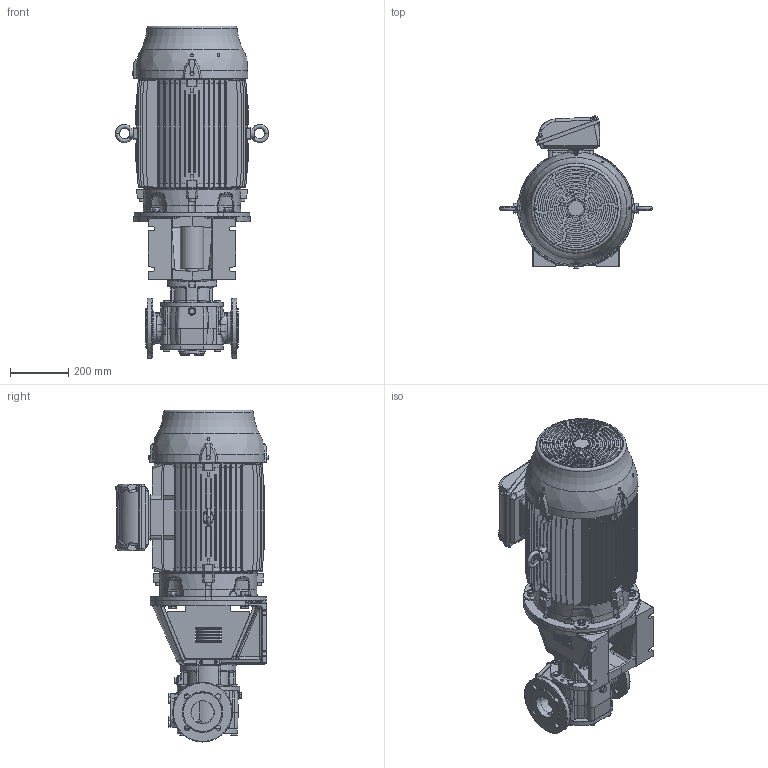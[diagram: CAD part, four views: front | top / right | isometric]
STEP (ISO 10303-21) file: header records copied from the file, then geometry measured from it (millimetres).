
FILE_DESCRIPTION(/* description */ (''),/* implementation_level */ '2;1');
FILE_NAME(/* name */ 'C:\V\JPP\Designs\GEAR PUMPS\PRODUCT ENGINEERING\EUROPE\TG BLOC\TG BLOC_58-80_R3_O_NRV-_200L-STEP.stp',/* time_stamp */ '2021-03-19T11:28:52+01:00',/* author */ ('A77THR'),/* organization */ (''),/* preprocessor_version */ 'ST-DEVELOPER v18.1',/* originating_system */ 'Autodesk Inventor 2020',/* authorisation */ '');
FILE_SCHEMA (('AUTOMOTIVE_DESIGN { 1 0 10303 214 3 1 1 }'));
Length unit declared in the file: millimetre
Products named in the file (1): TG BLOC_58-80_R3_O_NRV-_200L
Bounding box: 527.98 x 525.98 x 1144.26 mm (x, y, z)
Volume: 81014019 mm3; surface area: 3372929.6 mm2
Topology: 1 solids, 1 shells, 4352 faces, 11570 edges, 7392 vertices
Faces by surface type: plane 1790, cylinder 1073, bspline 817, cone 532, torus 103, sphere 37
Full cylindrical faces by diameter (mm): 4 x1, 4.5 x4, 4.917 x4, 6.647 x1, 7.323 x14, 7.444 x3, 8 x13, 9 x14, 10 x8, 10.106 x7, 10.2 x2, 11.053 x4, 11.4 x14, 11.445 x2, 11.6 x3, 12 x4, 13 x1, 13.157 x2, 13.2 x2, 14 x8, 15.011 x2, 17.2 x20, 18 x15, 19 x6, 20.955 x1, 21 x1, 21.2 x1, 21.939 x2, 22 x4, 23 x2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
Entity records: 183779 total; most frequent: CARTESIAN_POINT 77366, ORIENTED_EDGE 22972, DIRECTION 19562, EDGE_CURVE 11486, AXIS2_PLACEMENT_3D 7539, VERTEX_POINT 7384, EDGE_LOOP 4724, LINE 4484
